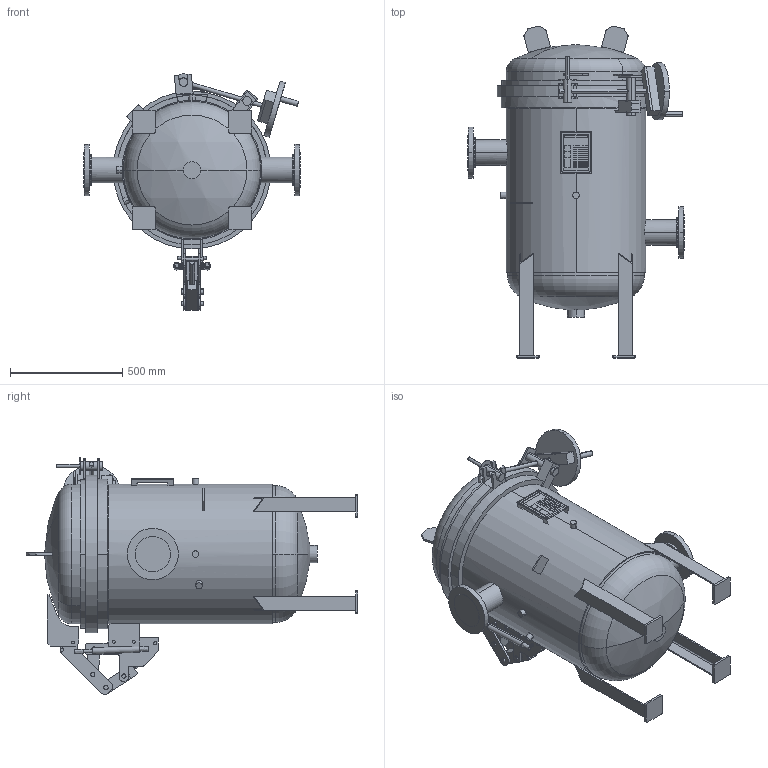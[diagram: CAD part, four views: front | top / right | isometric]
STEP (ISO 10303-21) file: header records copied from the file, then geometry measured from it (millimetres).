
FILE_DESCRIPTION (( 'STEP AP203' ), '1' );
FILE_NAME ('002004-02141.step', '2025-12-09T17:51:42', ( '' ), ( '' ), 'SwSTEP 2.0', 'SolidWorks 2023', '' );
FILE_SCHEMA (( 'CONFIG_CONTROL_DESIGN' ));
Length unit declared in the file: inch
Products named in the file (1): 002004-02141
Bounding box: 965.2 x 1478.87 x 1055.6 mm (x, y, z)
Volume: 142369862.3 mm3; surface area: 6596769.5 mm2
Topology: 15 solids, 15 shells, 732 faces, 1892 edges, 1265 vertices
Faces by surface type: plane 442, cylinder 232, bspline 42, torus 8, cone 4, sphere 4
Entity records: 24696 total; most frequent: CARTESIAN_POINT 6633, ORIENTED_EDGE 3784, DIRECTION 3598, EDGE_CURVE 1892, VERTEX_POINT 1265, VECTOR 1208, LINE 1208, AXIS2_PLACEMENT_3D 1195
